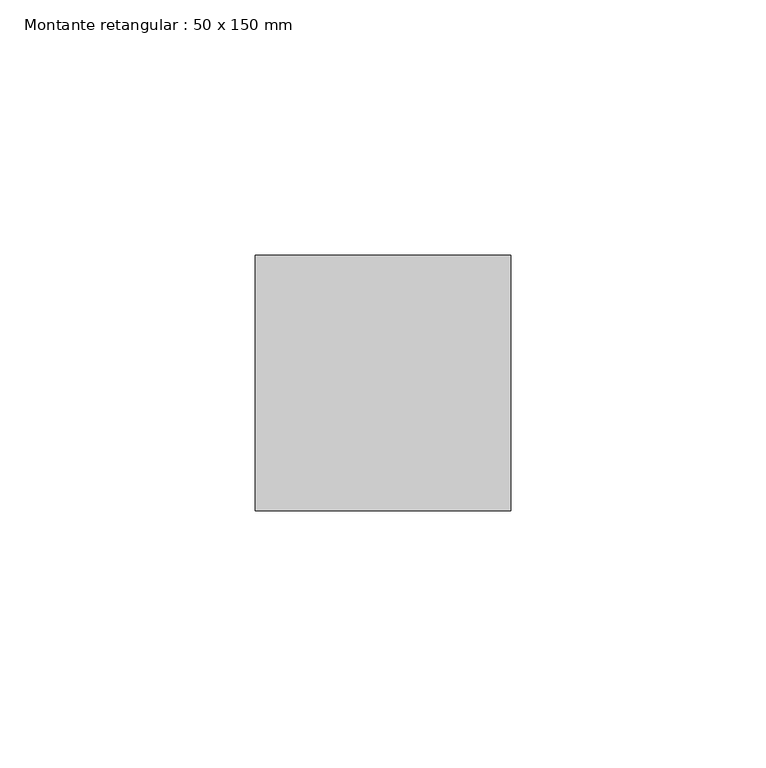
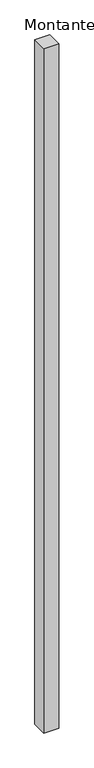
"""IFC4 building model written with IfcOpenShell, lengths in millimetres: member geometry, Montante retangular : 50 x 150 mm."""

from ifc_helpers import new_model, si_unit, frame, origin, place, context, project, spatial, polyline, outline, extrude, source, transform, mapped, element, save


def montante_retangular_50_x_150_mm_3ac8e92a(model_context):
    return source(origin(), model_context, "Body", "SweptSolid", [
        extrude(outline(polyline([(0.0, 25.0), (0.0, -25.0), (-50.0, -25.0), (-50.0, 25.0), (0.0, 25.0)])), frame((0.0, 0.0, -2400.0), z_axis=(0.0, 0.0, 1.0), x_axis=(1.0, 0.0, 0.0)), (0.0, 0.0, 1.0), 2400.0),
    ])


if __name__ == "__main__":
    model = new_model("IFC4")
    model_context = context("Model", 3, world=origin())
    ifc_project = project(units=[si_unit("LENGTHUNIT", "METRE", prefix="MILLI")], contexts=[model_context])
    site = spatial("IfcSite", under=ifc_project)
    building = spatial("IfcBuilding", under=site)
    placement = place(None, origin())
    montante_retangular_50_x_150_mm_shape = montante_retangular_50_x_150_mm_3ac8e92a(model_context)
    element("IfcMember", 1, ObjectType="Montante retangular : 50 x 150 mm", at=placement, inside=building, context=model_context, shape_type="MappedRepresentation", body=[
        mapped(montante_retangular_50_x_150_mm_shape, transform((0.0, 0.0, 0.0), x_axis=(1.0, 0.0, 0.0), y_axis=(0.0, 1.0, 0.0), z_axis=(0.0, 0.0, 1.0))),
    ])
    save(model, "model.ifc")
